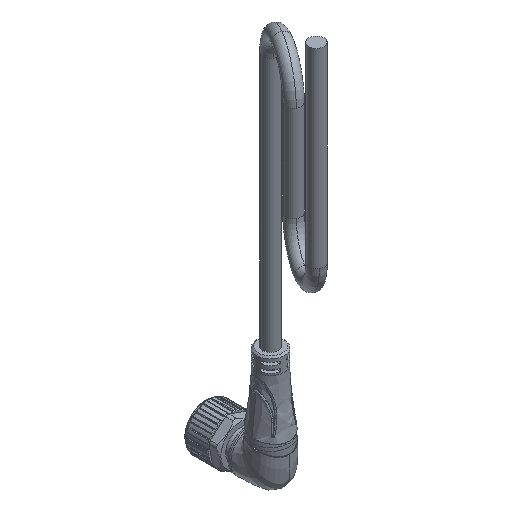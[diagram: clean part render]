
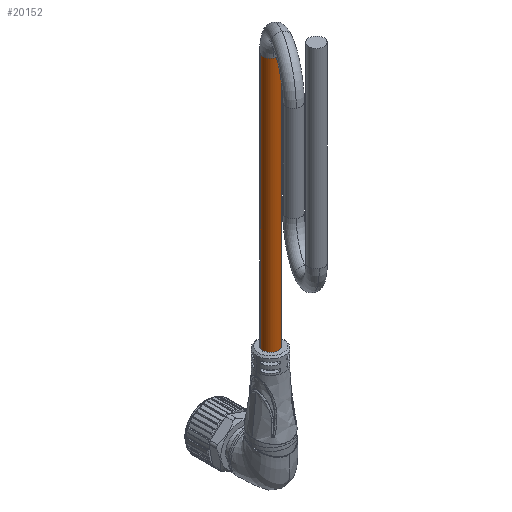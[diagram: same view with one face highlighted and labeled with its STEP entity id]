
A CAD part, isometric view. The second image highlights one B-rep face of the part: STEP entity #20152.
In plain terms, the highlighted cylindrical face has radius 2.4 mm (diameter 4.8 mm), a partial arc.
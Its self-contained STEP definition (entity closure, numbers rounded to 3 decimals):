
#1681 = CYLINDRICAL_SURFACE ( 'NONE', #2640, 2.4 ) ;
#2640 = AXIS2_PLACEMENT_3D ( 'NONE', #18396, #35081, #51789 ) ;
#3564 = CARTESIAN_POINT ( 'NONE',  ( -2.4, 40., 0. ) ) ;
#4803 = AXIS2_PLACEMENT_3D ( 'NONE', #23179, #11109, #36278 ) ;
#5410 = VECTOR ( 'NONE', #34341, 1000. ) ;
#6101 = ORIENTED_EDGE ( 'NONE', *, *, #46041, .F. ) ;
#9085 = DIRECTION ( 'NONE',  ( -1., 0., 0. ) ) ;
#9137 = VERTEX_POINT ( 'NONE', #3564 ) ;
#10782 = ORIENTED_EDGE ( 'NONE', *, *, #31048, .T. ) ;
#10925 = CIRCLE ( 'NONE', #4803, 2.4 ) ;
#11109 = DIRECTION ( 'NONE',  ( 0., 0., -1. ) ) ;
#11760 = CARTESIAN_POINT ( 'NONE',  ( 2.4, 40., 0. ) ) ;
#13063 = CARTESIAN_POINT ( 'NONE',  ( -2.4, 40., -90. ) ) ;
#13550 = CARTESIAN_POINT ( 'NONE',  ( -2.4, 40., 0. ) ) ;
#14255 = EDGE_CURVE ( 'NONE', #14316, #9137, #42879, .T. ) ;
#14316 = VERTEX_POINT ( 'NONE', #28205 ) ;
#14862 = EDGE_LOOP ( 'NONE', ( #53464, #47416, #41579, #10782, #6101 ) ) ;
#15072 = LINE ( 'NONE', #11760, #45200 ) ;
#18396 = CARTESIAN_POINT ( 'NONE',  ( 0., 40., 0. ) ) ;
#19573 = CARTESIAN_POINT ( 'NONE',  ( 0., 40., 0. ) ) ;
#20152 = ADVANCED_FACE ( 'NONE', ( #39195 ), #1681, .T. ) ;
#23179 = CARTESIAN_POINT ( 'NONE',  ( 0., 40., -90. ) ) ;
#23409 = VERTEX_POINT ( 'NONE', #13063 ) ;
#23845 = DIRECTION ( 'NONE',  ( 0., 0., -1. ) ) ;
#26051 = DIRECTION ( 'NONE',  ( 0., 0., -1. ) ) ;
#28205 = CARTESIAN_POINT ( 'NONE',  ( 0., 37.6, 0. ) ) ;
#31048 = EDGE_CURVE ( 'NONE', #9137, #23409, #39280, .T. ) ;
#31763 = VERTEX_POINT ( 'NONE', #45151 ) ;
#33231 = VERTEX_POINT ( 'NONE', #36921 ) ;
#34080 = AXIS2_PLACEMENT_3D ( 'NONE', #47145, #26051, #9085 ) ;
#34341 = DIRECTION ( 'NONE',  ( 0., 0., -1. ) ) ;
#35081 = DIRECTION ( 'NONE',  ( 0., 0., -1. ) ) ;
#36278 = DIRECTION ( 'NONE',  ( -1., 0., 0. ) ) ;
#36565 = EDGE_CURVE ( 'NONE', #33231, #14316, #42329, .T. ) ;
#36921 = CARTESIAN_POINT ( 'NONE',  ( 2.4, 40., 0. ) ) ;
#39195 = FACE_OUTER_BOUND ( 'NONE', #14862, .T. ) ;
#39280 = LINE ( 'NONE', #13550, #5410 ) ;
#41517 = EDGE_CURVE ( 'NONE', #33231, #31763, #15072, .T. ) ;
#41579 = ORIENTED_EDGE ( 'NONE', *, *, #14255, .T. ) ;
#42329 = CIRCLE ( 'NONE', #50311, 2.4 ) ;
#42879 = CIRCLE ( 'NONE', #34080, 2.4 ) ;
#45027 = DIRECTION ( 'NONE',  ( 0., 0., -1. ) ) ;
#45151 = CARTESIAN_POINT ( 'NONE',  ( 2.4, 40., -90. ) ) ;
#45200 = VECTOR ( 'NONE', #23845, 1000. ) ;
#46041 = EDGE_CURVE ( 'NONE', #31763, #23409, #10925, .T. ) ;
#47145 = CARTESIAN_POINT ( 'NONE',  ( 0., 40., 0. ) ) ;
#47416 = ORIENTED_EDGE ( 'NONE', *, *, #36565, .T. ) ;
#50311 = AXIS2_PLACEMENT_3D ( 'NONE', #19573, #45027, #53230 ) ;
#51789 = DIRECTION ( 'NONE',  ( -1., 0., 0. ) ) ;
#53230 = DIRECTION ( 'NONE',  ( -1., 0., 0. ) ) ;
#53464 = ORIENTED_EDGE ( 'NONE', *, *, #41517, .F. ) ;
